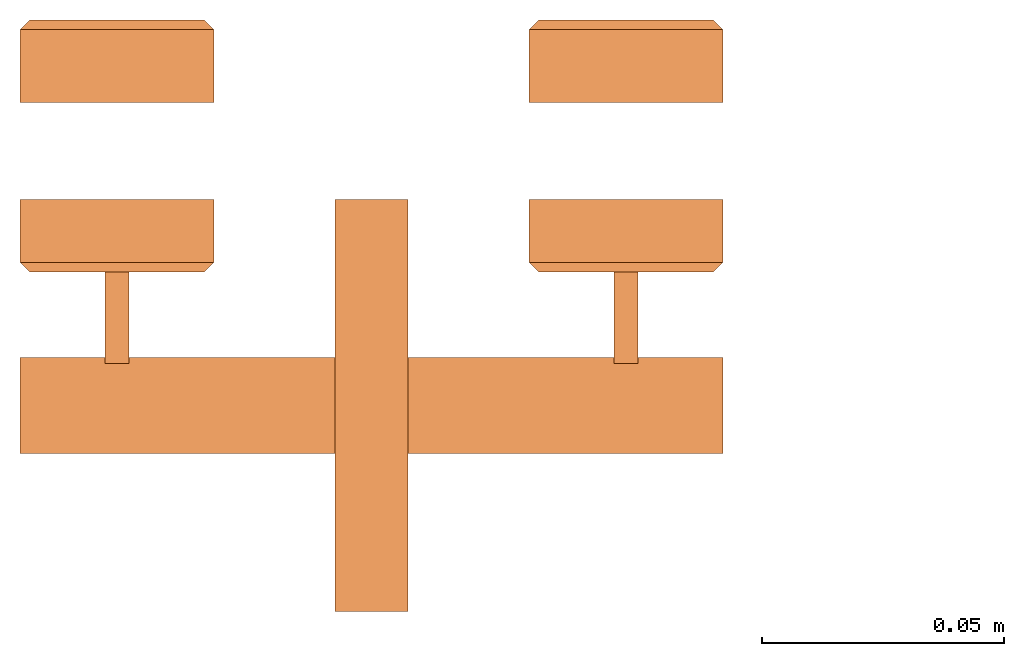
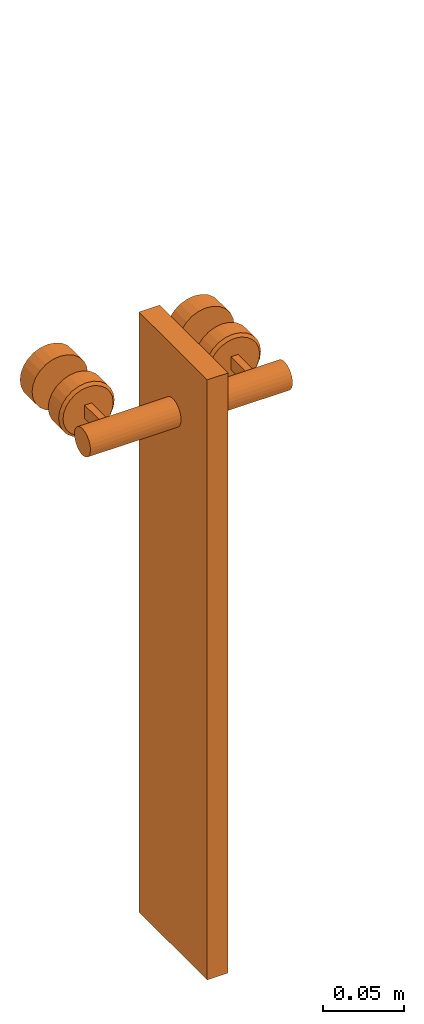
# One storey, part 1 of 10: 1 proxy.
"""IFC2X3 building model written with IfcOpenShell, lengths in millimetres."""

from ifc_helpers import new_model, entity, si_unit, converted_unit, derived_unit, direction, frame, origin_with_axes, place, context, subcontext, project, spatial, faceted_brep, material, material_list, type_object, element, save


model = new_model("IFC2X3")

# Units and contexts
model_context = context("Model", 3, precision=0.01, world=frame((0.0, 4.29681676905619e-09, 0.0)), true_north=direction((4.01073788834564e-13, 1.0)))
plan_context = context("Plan", 3, precision=0.01, world=frame((0.0, 4.29681676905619e-09, 0.0)), true_north=direction((4.01073788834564e-13, 1.0)))
footprint_context = subcontext(model_context, "FootPrint", "Model", "MODEL_VIEW")
ifc_project = project(units=[converted_unit("PLANEANGLEUNIT", "DEGREE", entity("IfcPositiveLengthMeasure", 0.0174532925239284), si_unit("PLANEANGLEUNIT", "RADIAN"), dimensions=[0, 0, 0, 0, 0, 0, 0]), si_unit("AREAUNIT", "SQUARE_METRE"), si_unit("LENGTHUNIT", "METRE", prefix="MILLI"), si_unit("MASSUNIT", "GRAM", prefix="KILO"), si_unit("POWERUNIT", "WATT"), si_unit("PRESSUREUNIT", "PASCAL"), si_unit("FORCEUNIT", "NEWTON", prefix="KILO"), si_unit("ELECTRICVOLTAGEUNIT", "VOLT"), si_unit("ELECTRICCURRENTUNIT", "AMPERE"), si_unit("THERMODYNAMICTEMPERATUREUNIT", "DEGREE_CELSIUS"), si_unit("TIMEUNIT", "SECOND"), si_unit("VOLUMEUNIT", "CUBIC_METRE"), derived_unit("LINEARVELOCITYUNIT", [(si_unit("LENGTHUNIT", "METRE"), 1), (si_unit("TIMEUNIT", "SECOND"), -1)]), derived_unit("VOLUMETRICFLOWRATEUNIT", [(si_unit("VOLUMEUNIT", "CUBIC_METRE"), 1), (si_unit("TIMEUNIT", "SECOND"), -1)]), derived_unit("THERMALTRANSMITTANCEUNIT", [(si_unit("POWERUNIT", "WATT"), 1), (si_unit("THERMODYNAMICTEMPERATUREUNIT", "KELVIN"), -1), (si_unit("AREAUNIT", "SQUARE_METRE"), -1)]), derived_unit("SOUNDPRESSUREUNIT", [(si_unit("PRESSUREUNIT", "PASCAL"), 1)])], contexts=[model_context, plan_context])

# Site, building, storey
site_placement = place(None, origin_with_axes())
site = spatial("IfcSite", under=ifc_project, at=site_placement, Name="ENGM", CompositionType="ELEMENT")
building_placement = place(site_placement, origin_with_axes())
building = spatial("IfcBuilding", under=site, at=building_placement, Name="TH", CompositionType="ELEMENT")
storey_placement = place(building_placement, frame((0.0, 0.0, 197000.0), z_axis=(0.0, 0.0, 1.0), x_axis=(1.0, 0.0, 0.0)))
storey = spatial("IfcBuildingStorey", under=building, at=storey_placement, Name="Nivå B", CompositionType="ELEMENT", Elevation=197000.0)

# Proxy
ifc_material_1 = material(Name="<Unnamed>")
ifc_material_2 = material(Name="Steel, Cast")
ifc_material_list = material_list([ifc_material_1, ifc_material_2])
building_element_proxy_type = type_object("IfcBuildingElementProxyType", Name="Stål rekkverk unit + 285 ned:B280 - Stål rekkverk unit + 285 ned", PredefinedType="NOTDEFINED", material=ifc_material_list)
proxy_placement = place(storey_placement, frame((896500.000000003, 480820.004374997, 16699.9891538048), z_axis=(0.0, 0.0, 1.0), x_axis=(0.0, -1.0, 0.0)))
element("IfcBuildingElementProxy", 1, at=proxy_placement, inside=storey, type_object=building_element_proxy_type, Name="Stål rekkverk unit + 285 ned:B280 - Stål rekkverk unit + 285 ned", ObjectType="Stål rekkverk unit + 285 ned:B280 - Stål rekkverk unit + 285 ned", context=footprint_context, shape_type="Brep", body=[
    faceted_brep([(13.0, 47.3236190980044, 169.329362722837), (0.0, 47.3236190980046, 169.329362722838), (0.0, 52.5, 170.010846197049), (13.0, 52.4999999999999, 170.010846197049), (0.0, 57.6763809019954, 169.329362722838), (13.0, 57.6763809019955, 169.329362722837), (0.0, 62.4999999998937, 167.331354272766), (13.0, 62.4999999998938, 167.331354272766), (13.0, 66.6421356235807, 164.152981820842), (0.0, 66.6421356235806, 164.152981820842), (0.0, 69.8205080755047, 160.010846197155), (13.0, 69.8205080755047, 160.010846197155), (0.0, 71.818516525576, 155.187227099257), (13.0, 71.818516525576, 155.187227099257), (13.0, 72.4999999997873, 150.010846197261), (0.0, 72.4999999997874, 150.010846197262), (0.0, 71.818516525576, 144.834465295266), (13.0, 71.8185165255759, 144.834465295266), (0.0, 69.8205080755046, 140.010846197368), (13.0, 69.8205080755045, 140.010846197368), (0.0, 66.6421356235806, 135.868710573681), (13.0, 66.6421356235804, 135.868710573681), (0.0, 62.4999999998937, 132.690338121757), (13.0, 62.4999999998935, 132.690338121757), (0.0, 57.6763809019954, 130.692329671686), (13.0, 57.6763809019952, 130.692329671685), (0.0, 52.4999999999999, 130.010846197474), (13.0, 52.5, 130.010846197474), (0.0, 47.3236190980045, 130.692329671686), (13.0, 47.3236190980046, 130.692329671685), (0.0, 42.5000000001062, 132.690338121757), (13.0, 42.5000000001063, 132.690338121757), (13.0, 38.3578643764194, 135.868710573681), (0.0, 38.3578643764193, 135.868710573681), (0.0, 35.1794919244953, 140.010846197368), (13.0, 35.1794919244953, 140.010846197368), (0.0, 33.1814834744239, 144.834465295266), (13.0, 33.1814834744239, 144.834465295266), (13.0, 32.5000000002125, 150.010846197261), (0.0, 32.5000000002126, 150.010846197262), (0.0, 33.181483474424, 155.187227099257), (13.0, 33.1814834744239, 155.187227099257), (0.0, 35.1794919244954, 160.010846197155), (13.0, 35.1794919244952, 160.010846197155), (0.0, 38.3578643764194, 164.152981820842), (13.0, 38.3578643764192, 164.152981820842), (0.0, 42.5000000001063, 167.331354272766), (13.0, 42.5000000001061, 167.331354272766), (15.0, 61.5000000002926, 165.599303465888), (15.0, 65.2279220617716, 162.738768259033), (15.0, 68.0884572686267, 159.010846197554), (15.0, 69.8866648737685, 154.669589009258), (15.0, 70.5000000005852, 150.010846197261), (15.0, 69.8866648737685, 145.352103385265), (15.0, 68.0884572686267, 141.010846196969), (15.0, 65.2279220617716, 137.28292413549), (15.0, 61.5000000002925, 134.422388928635), (15.0, 57.1587428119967, 132.624181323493), (15.0, 52.4999999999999, 132.010846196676), (15.0, 47.8412571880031, 132.624181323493), (15.0, 43.4999999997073, 134.422388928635), (15.0, 39.7720779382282, 137.28292413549), (15.0, 36.9115427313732, 141.010846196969), (15.0, 35.1133351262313, 145.352103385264), (15.0, 34.4999999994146, 150.010846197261), (15.0, 35.1133351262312, 154.669589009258), (15.0, 36.911542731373, 159.010846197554), (15.0, 39.772077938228, 162.738768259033), (15.0, 43.4999999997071, 165.599303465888), (15.0, 47.8412571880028, 167.39751107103), (15.0, 52.4999999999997, 168.010846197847), (15.0, 57.1587428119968, 167.39751107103)], [[[0, 1, 2, 3]], [[2, 4, 5, 3]], [[4, 6, 7, 5]], [[8, 7, 6, 9]], [[8, 9, 10, 11]], [[10, 12, 13, 11]], [[14, 13, 12, 15]], [[16, 17, 14, 15]], [[16, 18, 19, 17]], [[18, 20, 21, 19]], [[22, 23, 21, 20]], [[23, 22, 24, 25]], [[25, 24, 26, 27]], [[26, 28, 29, 27]], [[28, 30, 31, 29]], [[32, 31, 30, 33]], [[32, 33, 34, 35]], [[34, 36, 37, 35]], [[38, 37, 36, 39]], [[40, 41, 38, 39]], [[40, 42, 43, 41]], [[42, 44, 45, 43]], [[46, 47, 45, 44]], [[47, 46, 1, 0]], [[30, 28, 26, 24, 22, 20, 18, 16, 15, 12, 10, 9, 6, 4, 2, 1, 46, 44, 42, 40, 39, 36, 34, 33]], [[48, 49, 50, 51, 52, 53, 54, 55, 56, 57, 58, 59, 60, 61, 62, 63, 64, 65, 66, 67, 68, 69, 70, 71]], [[3, 70, 69, 0]], [[3, 5, 71, 70]], [[5, 7, 48, 71]], [[7, 8, 49, 48]], [[50, 49, 8, 11]], [[13, 51, 50, 11]], [[14, 52, 51, 13]], [[14, 17, 53, 52]], [[17, 19, 54, 53]], [[19, 21, 55, 54]], [[56, 55, 21, 23]], [[25, 57, 56, 23]], [[27, 58, 57, 25]], [[27, 29, 59, 58]], [[29, 31, 60, 59]], [[31, 32, 61, 60]], [[62, 61, 32, 35]], [[37, 63, 62, 35]], [[38, 64, 63, 37]], [[38, 41, 65, 64]], [[41, 43, 66, 65]], [[43, 45, 67, 66]], [[68, 67, 45, 47]], [[0, 69, 68, 47]]], orient=[[False], [False], [False], [False], [False], [False], [False], [False], [False], [False], [False], [False], [False], [False], [False], [False], [False], [False], [False], [False], [False], [False], [False], [False], [False], [False], [False], [False], [False], [False], [False], [False], [False], [False], [False], [False], [False], [False], [False], [False], [False], [False], [False], [False], [False], [False], [False], [False], [False], [False]]),
    faceted_brep([(13.0, -47.3236190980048, 130.692329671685), (0.0, -47.3236190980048, 130.692329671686), (0.0, -52.5000000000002, 130.010846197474), (13.0, -52.5000000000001, 130.010846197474), (0.0, -57.6763809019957, 130.692329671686), (13.0, -57.6763809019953, 130.692329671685), (0.0, -62.499999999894, 132.690338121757), (13.0, -62.4999999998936, 132.690338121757), (13.0, -66.6421356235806, 135.868710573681), (0.0, -66.6421356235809, 135.868710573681), (0.0, -69.8205080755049, 140.010846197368), (13.0, -69.8205080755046, 140.010846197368), (0.0, -71.8185165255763, 144.834465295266), (13.0, -71.818516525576, 144.834465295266), (13.0, -72.4999999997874, 150.010846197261), (0.0, -72.4999999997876, 150.010846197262), (0.0, -71.8185165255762, 155.187227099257), (13.0, -71.818516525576, 155.187227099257), (0.0, -69.8205080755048, 160.010846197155), (13.0, -69.8205080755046, 160.010846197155), (0.0, -66.6421356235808, 164.152981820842), (13.0, -66.6421356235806, 164.152981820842), (0.0, -62.4999999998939, 167.331354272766), (13.0, -62.4999999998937, 167.331354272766), (0.0, -57.6763809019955, 169.329362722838), (13.0, -57.6763809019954, 169.329362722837), (0.0, -52.5000000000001, 170.010846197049), (13.0, -52.4999999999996, 170.010846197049), (0.0, -47.3236190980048, 169.329362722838), (13.0, -47.3236190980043, 169.329362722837), (0.0, -42.5000000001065, 167.331354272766), (13.0, -42.500000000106, 167.331354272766), (13.0, -38.3578643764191, 164.152981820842), (0.0, -38.3578643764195, 164.152981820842), (0.0, -35.1794919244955, 160.010846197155), (13.0, -35.1794919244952, 160.010846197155), (0.0, -33.1814834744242, 155.187227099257), (13.0, -33.1814834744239, 155.187227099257), (13.0, -32.5000000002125, 150.010846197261), (0.0, -32.5000000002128, 150.010846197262), (0.0, -33.1814834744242, 144.834465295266), (13.0, -33.181483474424, 144.834465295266), (0.0, -35.1794919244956, 140.010846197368), (13.0, -35.1794919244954, 140.010846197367), (0.0, -38.3578643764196, 135.868710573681), (13.0, -38.3578643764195, 135.868710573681), (0.0, -42.5000000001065, 132.690338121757), (13.0, -42.5000000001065, 132.690338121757), (15.0, -47.841257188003, 167.39751107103), (15.0, -43.4999999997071, 165.599303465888), (15.0, -39.7720779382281, 162.738768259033), (15.0, -36.9115427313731, 159.010846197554), (15.0, -35.1133351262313, 154.669589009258), (15.0, -34.4999999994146, 150.010846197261), (15.0, -35.1133351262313, 145.352103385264), (15.0, -36.9115427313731, 141.010846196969), (15.0, -39.7720779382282, 137.28292413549), (15.0, -43.4999999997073, 134.422388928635), (15.0, -47.8412571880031, 132.624181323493), (15.0, -52.5, 132.010846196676), (15.0, -57.1587428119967, 132.624181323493), (15.0, -61.5000000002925, 134.422388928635), (15.0, -65.2279220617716, 137.28292413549), (15.0, -68.0884572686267, 141.010846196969), (15.0, -69.8866648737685, 145.352103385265), (15.0, -70.5000000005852, 150.010846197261), (15.0, -69.8866648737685, 154.669589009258), (15.0, -68.0884572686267, 159.010846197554), (15.0, -65.2279220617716, 162.738768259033), (15.0, -61.5000000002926, 165.599303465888), (15.0, -57.1587428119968, 167.39751107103), (15.0, -52.4999999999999, 168.010846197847)], [[[0, 1, 2, 3]], [[2, 4, 5, 3]], [[4, 6, 7, 5]], [[8, 7, 6, 9]], [[8, 9, 10, 11]], [[10, 12, 13, 11]], [[14, 13, 12, 15]], [[16, 17, 14, 15]], [[16, 18, 19, 17]], [[18, 20, 21, 19]], [[22, 23, 21, 20]], [[23, 22, 24, 25]], [[25, 24, 26, 27]], [[26, 28, 29, 27]], [[28, 30, 31, 29]], [[32, 31, 30, 33]], [[32, 33, 34, 35]], [[34, 36, 37, 35]], [[38, 37, 36, 39]], [[40, 41, 38, 39]], [[40, 42, 43, 41]], [[42, 44, 45, 43]], [[46, 47, 45, 44]], [[47, 46, 1, 0]], [[33, 30, 28, 26, 24, 22, 20, 18, 16, 15, 12, 10, 9, 6, 4, 2, 1, 46, 44, 42, 40, 39, 36, 34]], [[48, 49, 50, 51, 52, 53, 54, 55, 56, 57, 58, 59, 60, 61, 62, 63, 64, 65, 66, 67, 68, 69, 70, 71]], [[71, 27, 29, 48]], [[27, 71, 70, 25]], [[25, 70, 69, 23]], [[21, 23, 69, 68]], [[67, 19, 21, 68]], [[66, 17, 19, 67]], [[66, 65, 14, 17]], [[14, 65, 64, 13]], [[13, 64, 63, 11]], [[11, 63, 62, 8]], [[7, 8, 62, 61]], [[60, 5, 7, 61]], [[59, 3, 5, 60]], [[3, 59, 58, 0]], [[0, 58, 57, 47]], [[45, 47, 57, 56]], [[55, 43, 45, 56]], [[54, 41, 43, 55]], [[54, 53, 38, 41]], [[38, 53, 52, 37]], [[37, 52, 51, 35]], [[35, 51, 50, 32]], [[31, 32, 50, 49]], [[48, 29, 31, 49]]], orient=[[False], [False], [False], [False], [False], [False], [False], [False], [False], [False], [False], [False], [False], [False], [False], [False], [False], [False], [False], [False], [False], [False], [False], [False], [False], [False], [False], [False], [False], [False], [False], [False], [False], [False], [False], [False], [False], [False], [False], [False], [False], [False], [False], [False], [False], [False], [False], [False], [False], [False]]),
    faceted_brep([(-35.0, 47.3236190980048, 130.692329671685), (-20.0, 47.3236190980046, 130.692329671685), (-20.0, 52.5, 130.010846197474), (-35.0, 52.5, 130.010846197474), (-20.0, 57.6763809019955, 130.692329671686), (-35.0, 57.6763809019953, 130.692329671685), (-20.0, 62.4999999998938, 132.690338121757), (-35.0, 62.4999999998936, 132.690338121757), (-35.0, 66.6421356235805, 135.868710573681), (-20.0, 66.6421356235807, 135.868710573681), (-20.0, 69.8205080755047, 140.010846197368), (-35.0, 69.8205080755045, 140.010846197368), (-20.0, 71.818516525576, 144.834465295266), (-35.0, 71.8185165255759, 144.834465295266), (-35.0, 72.4999999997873, 150.010846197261), (-20.0, 72.4999999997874, 150.010846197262), (-20.0, 71.818516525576, 155.187227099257), (-35.0, 71.8185165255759, 155.187227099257), (-20.0, 69.8205080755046, 160.010846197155), (-35.0, 69.8205080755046, 160.010846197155), (-20.0, 66.6421356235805, 164.152981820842), (-35.0, 66.6421356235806, 164.152981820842), (-20.0, 62.4999999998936, 167.331354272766), (-35.0, 62.4999999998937, 167.331354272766), (-20.0, 57.6763809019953, 169.329362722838), (-35.0, 57.6763809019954, 169.329362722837), (-20.0, 52.4999999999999, 170.010846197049), (-35.0, 52.4999999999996, 170.010846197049), (-20.0, 47.3236190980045, 169.329362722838), (-35.0, 47.3236190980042, 169.329362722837), (-20.0, 42.5000000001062, 167.331354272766), (-35.0, 42.5000000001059, 167.331354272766), (-35.0, 38.3578643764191, 164.152981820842), (-20.0, 38.3578643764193, 164.152981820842), (-20.0, 35.1794919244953, 160.010846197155), (-35.0, 35.1794919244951, 160.010846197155), (-20.0, 33.1814834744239, 155.187227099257), (-35.0, 33.1814834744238, 155.187227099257), (-35.0, 32.5000000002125, 150.010846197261), (-20.0, 32.5000000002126, 150.010846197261), (-20.0, 33.181483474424, 144.834465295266), (-35.0, 33.181483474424, 144.834465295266), (-20.0, 35.1794919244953, 140.010846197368), (-35.0, 35.1794919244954, 140.010846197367), (-20.0, 38.3578643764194, 135.868710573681), (-35.0, 38.3578643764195, 135.868710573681), (-20.0, 42.5000000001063, 132.690338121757), (-35.0, 42.5000000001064, 132.690338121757), (-37.0, 47.841257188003, 167.39751107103), (-37.0, 43.4999999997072, 165.599303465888), (-37.0, 39.7720779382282, 162.738768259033), (-37.0, 36.9115427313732, 159.010846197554), (-37.0, 35.1133351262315, 154.669589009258), (-37.0, 34.4999999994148, 150.010846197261), (-37.0, 35.1133351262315, 145.352103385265), (-37.0, 36.9115427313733, 141.010846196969), (-37.0, 39.7720779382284, 137.28292413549), (-37.0, 43.4999999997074, 134.422388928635), (-37.0, 47.8412571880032, 132.624181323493), (-37.0, 52.5, 132.010846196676), (-37.0, 57.1587428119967, 132.624181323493), (-37.0, 61.5000000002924, 134.422388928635), (-37.0, 65.2279220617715, 137.28292413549), (-37.0, 68.0884572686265, 141.010846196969), (-37.0, 69.8866648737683, 145.352103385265), (-37.0, 70.500000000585, 150.010846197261), (-37.0, 69.8866648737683, 154.669589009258), (-37.0, 68.0884572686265, 159.010846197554), (-37.0, 65.2279220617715, 162.738768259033), (-37.0, 61.5000000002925, 165.599303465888), (-37.0, 57.1587428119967, 167.39751107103), (-37.0, 52.4999999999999, 168.010846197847)], [[[0, 1, 2, 3]], [[2, 4, 5, 3]], [[4, 6, 7, 5]], [[8, 7, 6, 9]], [[8, 9, 10, 11]], [[10, 12, 13, 11]], [[14, 13, 12, 15]], [[16, 17, 14, 15]], [[16, 18, 19, 17]], [[18, 20, 21, 19]], [[22, 23, 21, 20]], [[23, 22, 24, 25]], [[25, 24, 26, 27]], [[26, 28, 29, 27]], [[28, 30, 31, 29]], [[32, 31, 30, 33]], [[32, 33, 34, 35]], [[34, 36, 37, 35]], [[38, 37, 36, 39]], [[40, 41, 38, 39]], [[40, 42, 43, 41]], [[42, 44, 45, 43]], [[46, 47, 45, 44]], [[47, 46, 1, 0]], [[33, 30, 28, 26, 24, 22, 20, 18, 16, 15, 12, 10, 9, 6, 4, 2, 1, 46, 44, 42, 40, 39, 36, 34]], [[48, 49, 50, 51, 52, 53, 54, 55, 56, 57, 58, 59, 60, 61, 62, 63, 64, 65, 66, 67, 68, 69, 70, 71]], [[71, 27, 29, 48]], [[27, 71, 70, 25]], [[25, 70, 69, 23]], [[21, 23, 69, 68]], [[67, 19, 21, 68]], [[66, 17, 19, 67]], [[66, 65, 14, 17]], [[14, 65, 64, 13]], [[13, 64, 63, 11]], [[11, 63, 62, 8]], [[7, 8, 62, 61]], [[60, 5, 7, 61]], [[59, 3, 5, 60]], [[3, 59, 58, 0]], [[0, 58, 57, 47]], [[45, 47, 57, 56]], [[55, 43, 45, 56]], [[54, 41, 43, 55]], [[54, 53, 38, 41]], [[38, 53, 52, 37]], [[37, 52, 51, 35]], [[35, 51, 50, 32]], [[31, 32, 50, 49]], [[48, 29, 31, 49]]], orient=[[False], [False], [False], [False], [False], [False], [False], [False], [False], [False], [False], [False], [False], [False], [False], [False], [False], [False], [False], [False], [False], [False], [False], [False], [False], [False], [False], [False], [False], [False], [False], [False], [False], [False], [False], [False], [False], [False], [False], [False], [False], [False], [False], [False], [False], [False], [False], [False], [False], [False]]),
    faceted_brep([(-35.0, -47.3236190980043, 169.329362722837), (-20.0, -47.3236190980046, 169.329362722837), (-20.0, -52.5, 170.010846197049), (-35.0, -52.4999999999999, 170.010846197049), (-20.0, -57.6763809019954, 169.329362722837), (-35.0, -57.6763809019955, 169.329362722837), (-20.0, -62.4999999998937, 167.331354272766), (-35.0, -62.4999999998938, 167.331354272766), (-35.0, -66.6421356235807, 164.152981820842), (-20.0, -66.6421356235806, 164.152981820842), (-20.0, -69.8205080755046, 160.010846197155), (-35.0, -69.8205080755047, 160.010846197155), (-20.0, -71.818516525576, 155.187227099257), (-35.0, -71.818516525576, 155.187227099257), (-35.0, -72.4999999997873, 150.010846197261), (-20.0, -72.4999999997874, 150.010846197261), (-20.0, -71.818516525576, 144.834465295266), (-35.0, -71.8185165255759, 144.834465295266), (-20.0, -69.8205080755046, 140.010846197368), (-35.0, -69.8205080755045, 140.010846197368), (-20.0, -66.6421356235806, 135.868710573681), (-35.0, -66.6421356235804, 135.868710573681), (-20.0, -62.4999999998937, 132.690338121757), (-35.0, -62.4999999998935, 132.690338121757), (-20.0, -57.6763809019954, 130.692329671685), (-35.0, -57.6763809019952, 130.692329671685), (-20.0, -52.4999999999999, 130.010846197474), (-35.0, -52.5, 130.010846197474), (-20.0, -47.3236190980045, 130.692329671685), (-35.0, -47.3236190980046, 130.692329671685), (-20.0, -42.5000000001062, 132.690338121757), (-35.0, -42.5000000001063, 132.690338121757), (-35.0, -38.3578643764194, 135.868710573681), (-20.0, -38.3578643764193, 135.868710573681), (-20.0, -35.1794919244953, 140.010846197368), (-35.0, -35.1794919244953, 140.010846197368), (-20.0, -33.1814834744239, 144.834465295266), (-35.0, -33.1814834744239, 144.834465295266), (-35.0, -32.5000000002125, 150.010846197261), (-20.0, -32.5000000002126, 150.010846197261), (-20.0, -33.181483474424, 155.187227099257), (-35.0, -33.1814834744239, 155.187227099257), (-20.0, -35.1794919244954, 160.010846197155), (-35.0, -35.1794919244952, 160.010846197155), (-20.0, -38.3578643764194, 164.152981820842), (-35.0, -38.3578643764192, 164.152981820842), (-20.0, -42.5000000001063, 167.331354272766), (-35.0, -42.5000000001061, 167.331354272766), (-37.0, -68.0884572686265, 159.010846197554), (-37.0, -69.8866648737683, 154.669589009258), (-37.0, -70.500000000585, 150.010846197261), (-37.0, -69.8866648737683, 145.352103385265), (-37.0, -68.0884572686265, 141.010846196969), (-37.0, -65.2279220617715, 137.28292413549), (-37.0, -61.5000000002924, 134.422388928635), (-37.0, -57.1587428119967, 132.624181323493), (-37.0, -52.4999999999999, 132.010846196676), (-37.0, -47.8412571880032, 132.624181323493), (-37.0, -43.4999999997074, 134.422388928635), (-37.0, -39.7720779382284, 137.28292413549), (-37.0, -36.9115427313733, 141.010846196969), (-37.0, -35.1133351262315, 145.352103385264), (-37.0, -34.4999999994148, 150.010846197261), (-37.0, -35.1133351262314, 154.669589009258), (-37.0, -36.9115427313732, 159.010846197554), (-37.0, -39.7720779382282, 162.738768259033), (-37.0, -43.4999999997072, 165.599303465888), (-37.0, -47.8412571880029, 167.39751107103), (-37.0, -52.4999999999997, 168.010846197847), (-37.0, -57.1587428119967, 167.39751107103), (-37.0, -61.5000000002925, 165.599303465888), (-37.0, -65.2279220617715, 162.738768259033)], [[[0, 1, 2, 3]], [[2, 4, 5, 3]], [[4, 6, 7, 5]], [[8, 7, 6, 9]], [[8, 9, 10, 11]], [[10, 12, 13, 11]], [[14, 13, 12, 15]], [[16, 17, 14, 15]], [[16, 18, 19, 17]], [[18, 20, 21, 19]], [[22, 23, 21, 20]], [[23, 22, 24, 25]], [[25, 24, 26, 27]], [[26, 28, 29, 27]], [[28, 30, 31, 29]], [[32, 31, 30, 33]], [[32, 33, 34, 35]], [[34, 36, 37, 35]], [[38, 37, 36, 39]], [[40, 41, 38, 39]], [[40, 42, 43, 41]], [[42, 44, 45, 43]], [[46, 47, 45, 44]], [[47, 46, 1, 0]], [[30, 28, 26, 24, 22, 20, 18, 16, 15, 12, 10, 9, 6, 4, 2, 1, 46, 44, 42, 40, 39, 36, 34, 33]], [[48, 49, 50, 51, 52, 53, 54, 55, 56, 57, 58, 59, 60, 61, 62, 63, 64, 65, 66, 67, 68, 69, 70, 71]], [[3, 68, 67, 0]], [[3, 5, 69, 68]], [[5, 7, 70, 69]], [[7, 8, 71, 70]], [[48, 71, 8, 11]], [[13, 49, 48, 11]], [[14, 50, 49, 13]], [[14, 17, 51, 50]], [[17, 19, 52, 51]], [[19, 21, 53, 52]], [[54, 53, 21, 23]], [[25, 55, 54, 23]], [[27, 56, 55, 25]], [[27, 29, 57, 56]], [[29, 31, 58, 57]], [[31, 32, 59, 58]], [[60, 59, 32, 35]], [[37, 61, 60, 35]], [[38, 62, 61, 37]], [[38, 41, 63, 62]], [[41, 43, 64, 63]], [[43, 45, 65, 64]], [[66, 65, 45, 47]], [[0, 67, 66, 47]]], orient=[[False], [False], [False], [False], [False], [False], [False], [False], [False], [False], [False], [False], [False], [False], [False], [False], [False], [False], [False], [False], [False], [False], [False], [False], [False], [False], [False], [False], [False], [False], [False], [False], [False], [False], [False], [False], [False], [False], [False], [False], [False], [False], [False], [False], [False], [False], [False], [False], [False], [False]]),
    faceted_brep([(15.0, 55.0, 150.010846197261), (15.0, 55.0, 145.010846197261), (33.8397459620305, 55.0, 145.010846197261), (32.684234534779, 55.0, 148.100153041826), (32.5965825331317, 55.0, 151.397324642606), (32.8202668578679, 55.0, 152.330672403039), (33.043951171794, 55.0, 153.264020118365), (33.4418485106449, 55.0, 154.137433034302), (33.8397459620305, 55.0, 155.010846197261), (15.0, 55.0, 155.010846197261), (32.8407417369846, 50.0, 147.422655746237), (33.8397459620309, 50.0, 145.010846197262), (15.0, 50.0, 145.010846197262), (15.0, 50.0, 155.010846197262), (33.8397459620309, 50.0, 155.010846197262), (32.8407417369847, 50.0, 152.599036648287), (32.4999999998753, 50.0, 150.010846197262), (33.8397459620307, 53.2322327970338, 155.010846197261), (33.8397459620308, 51.7677672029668, 155.010846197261), (32.9716368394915, 53.491532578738, 152.487500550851), (33.0361072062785, 53.2322329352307, 152.674897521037), (33.3466911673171, 51.9830650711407, 153.577676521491), (33.4379265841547, 51.6161164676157, 153.842871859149), (32.6797821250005, 51.4973074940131, 151.42145150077), (32.653529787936, 52.8595554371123, 151.009317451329), (32.599320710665, 52.5000003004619, 148.964793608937), (33.8397459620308, 51.9830651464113, 145.010846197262), (33.8397459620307, 53.0169348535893, 145.010846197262)], [[[0, 1, 2, 3, 4, 5, 6, 7, 8, 9]], [[10, 11, 12, 13, 14, 15, 16]], [[9, 8, 17, 18, 14, 13]], [[4, 19, 20, 21, 22, 6, 5]], [[14, 22, 21, 23]], [[21, 24, 23]], [[23, 24, 25]], [[16, 23, 25]], [[16, 15, 23]], [[10, 16, 25]], [[10, 25, 26]], [[25, 27, 26]], [[3, 27, 25]], [[3, 2, 27]], [[26, 11, 10]], [[3, 25, 24]], [[3, 24, 4]], [[14, 23, 15]], [[22, 14, 18]], [[21, 20, 19, 4, 24]], [[22, 18, 6]], [[6, 18, 17, 8, 7]], [[1, 12, 11, 26, 27, 2]], [[0, 9, 13, 12, 1]]], orient=[[False], [False], [False], [False], [False], [False], [False], [False], [False], [False], [False], [False], [False], [False], [False], [False], [False], [False], [False], [False], [False], [False], [False], [False]]),
    faceted_brep([(15.0, -55.0, 155.010846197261), (33.8397459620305, -55.0, 155.010846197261), (33.4418485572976, -55.0, 154.137433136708), (33.043951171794, -55.0, 153.264020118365), (32.8202668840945, -55.0, 152.330672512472), (32.5965825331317, -55.0, 151.397324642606), (32.684234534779, -55.0, 148.100153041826), (33.8397459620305, -55.0, 145.010846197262), (15.0, -55.0, 145.010846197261), (15.0, -55.0, 150.010846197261), (33.8397459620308, -50.0, 155.010846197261), (15.0, -50.0, 155.010846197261), (15.0, -50.0, 145.010846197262), (33.8397459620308, -50.0, 145.010846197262), (32.8407417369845, -50.0, 147.422655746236), (32.4999999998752, -50.0, 150.010846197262), (32.8407417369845, -50.0, 152.599036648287), (33.8397459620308, -51.6161164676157, 155.010846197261), (33.8397459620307, -53.2322329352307, 155.010846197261), (33.4002212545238, -51.7677672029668, 153.733273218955), (33.3466911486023, -51.9830651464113, 153.577676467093), (32.5857865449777, -52.5000003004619, 149.146253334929), (33.0896373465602, -53.0169348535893, 152.830494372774), (33.0214289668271, -52.8595554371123, 146.858069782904), (33.8397459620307, -51.9830650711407, 145.010846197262), (33.8397459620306, -53.4915324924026, 145.010846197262), (32.8419199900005, -51.4973074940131, 147.467427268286), (33.0361072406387, -53.2322327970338, 152.674897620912)], [[[0, 1, 2, 3, 4, 5, 6, 7, 8, 9]], [[10, 11, 12, 13, 14, 15, 16]], [[0, 11, 10, 17, 18, 1]], [[17, 3, 2, 1, 18]], [[17, 19, 3]], [[17, 10, 19]], [[20, 19, 10, 16]], [[16, 21, 20]], [[21, 22, 20]], [[6, 22, 21]], [[6, 21, 23]], [[6, 23, 7]], [[24, 25, 7, 23]], [[24, 23, 26]], [[13, 24, 26]], [[13, 26, 14]], [[15, 14, 26]], [[15, 26, 21]], [[26, 23, 21]], [[5, 27, 22, 6]], [[16, 15, 21]], [[3, 19, 20, 22, 27, 5, 4]], [[8, 7, 25, 24, 13, 12]], [[8, 12, 11, 0, 9]]], orient=[[False], [False], [False], [False], [False], [False], [False], [False], [False], [False], [False], [False], [False], [False], [False], [False], [False], [False], [False], [False], [False], [False], [False], [False]]),
    faceted_brep([(33.2928803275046, 72.5, 153.913274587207), (33.2928803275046, -72.5, 153.913274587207), (32.5965825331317, -72.5, 151.397324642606), (32.5965825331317, 72.5, 151.397324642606), (32.5751862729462, -72.5, 148.786888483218), (32.5751862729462, 72.5, 148.786888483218), (33.2301496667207, -72.5, 146.259863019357), (33.2301496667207, 72.5, 146.259863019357), (34.5168380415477, 72.5, 143.988460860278), (34.5168380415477, -72.5, 143.988460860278), (36.3475657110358, -72.5, 142.127474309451), (36.3475657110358, 72.5, 142.127474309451), (38.5975716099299, -72.5, 140.803726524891), (38.5975716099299, 72.5, 140.803726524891), (41.1135215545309, -72.5, 140.107428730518), (41.1135215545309, 72.5, 140.107428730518), (43.7239577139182, -72.5, 140.086032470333), (43.7239577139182, 72.5, 140.086032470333), (46.2509831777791, -72.5, 140.740995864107), (46.2509831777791, 72.5, 140.740995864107), (48.5223853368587, -72.5, 142.027684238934), (48.5223853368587, 72.5, 142.027684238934), (50.3833718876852, -72.5, 143.858411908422), (50.3833718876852, 72.5, 143.858411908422), (51.7071196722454, -72.5, 146.108417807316), (51.7071196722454, 72.5, 146.108417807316), (52.4034174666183, -72.5, 148.624367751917), (52.4034174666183, 72.5, 148.624367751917), (52.4248137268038, -72.5, 151.234803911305), (52.4248137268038, 72.5, 151.234803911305), (51.7698503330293, -72.5, 153.761829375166), (51.7698503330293, 72.5, 153.761829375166), (50.4831619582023, 72.5, 156.033231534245), (50.4831619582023, -72.5, 156.033231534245), (48.6524342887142, -72.5, 157.894218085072), (48.6524342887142, 72.5, 157.894218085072), (46.4024283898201, -72.5, 159.217965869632), (46.4024283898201, 72.5, 159.217965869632), (43.8864784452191, -72.5, 159.914263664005), (43.8864784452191, 72.5, 159.914263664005), (41.2760422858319, -72.5, 159.93565992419), (41.2760422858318, 72.5, 159.93565992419), (38.7490168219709, -72.5, 159.280696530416), (38.7490168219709, 72.5, 159.280696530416), (36.4776146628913, -72.5, 157.994008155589), (36.4776146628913, 72.5, 157.994008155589), (34.6166281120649, -72.5, 156.163280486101), (34.6166281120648, 72.5, 156.163280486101)], [[[0, 1, 2, 3]], [[2, 4, 5, 3]], [[4, 6, 7, 5]], [[8, 7, 6, 9]], [[8, 9, 10, 11]], [[10, 12, 13, 11]], [[14, 15, 13, 12]], [[16, 17, 15, 14]], [[16, 18, 19, 17]], [[18, 20, 21, 19]], [[22, 23, 21, 20]], [[23, 22, 24, 25]], [[25, 24, 26, 27]], [[26, 28, 29, 27]], [[28, 30, 31, 29]], [[32, 31, 30, 33]], [[32, 33, 34, 35]], [[34, 36, 37, 35]], [[38, 39, 37, 36]], [[40, 41, 39, 38]], [[40, 42, 43, 41]], [[42, 44, 45, 43]], [[46, 47, 45, 44]], [[47, 46, 1, 0]], [[12, 10, 9, 6, 4, 2, 1, 46, 44, 42, 40, 38, 36, 34, 33, 30, 28, 26, 24, 22, 20, 18, 16, 14]], [[8, 11, 13, 15, 17, 19, 21, 23, 25, 27, 29, 31, 32, 35, 37, 39, 41, 43, 45, 47, 0, 3, 5, 7]]], orient=[[False], [False], [False], [False], [False], [False], [False], [False], [False], [False], [False], [False], [False], [False], [False], [False], [False], [False], [False], [False], [False], [False], [False], [False], [False], [False]]),
    faceted_brep([(85.0, -7.50000000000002, 200.010846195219), (85.0, 7.49999999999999, 200.010846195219), (85.0, 7.49999999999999, -254.98915380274), (85.0, -7.50000000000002, -254.98915380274), (0.0, 7.49999999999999, 200.010846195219), (0.0, -7.50000000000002, 200.010846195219), (0.0, -7.50000000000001, -254.98915380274), (0.0, 7.49999999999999, -254.98915380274)], [[[0, 1, 2, 3]], [[4, 5, 6, 7]], [[3, 2, 7, 6]], [[5, 0, 3, 6]], [[1, 4, 7, 2]], [[5, 4, 1, 0]]], orient=[[False], [False], [False], [False], [False], [False]]),
])

save(model, "model.ifc")
